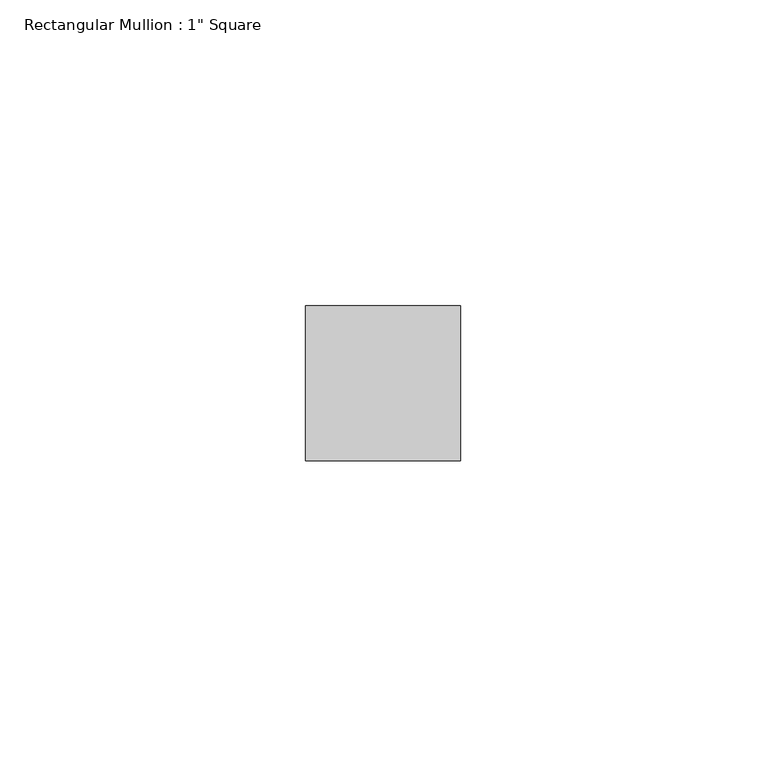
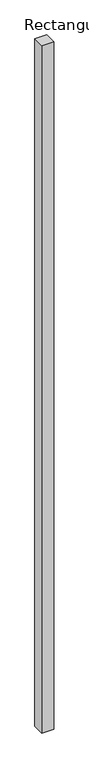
"""IFC4 building model written with IfcOpenShell, lengths in millimetres: member geometry."""

from ifc_helpers import new_model, si_unit, frame, origin, place, context, project, spatial, polyline, outline, extrude, source, transform, mapped, element, save


def member_9a48f267(model_context):
    return source(origin(), model_context, "Body", "SweptSolid", [
        extrude(outline(polyline([(12.7, 12.7), (12.7, -12.7), (-12.7, -12.7), (-12.7, 12.7), (12.7, 12.7)])), frame((0.0, 0.0, -1548.2551926), z_axis=(0.0, 0.0, 1.0), x_axis=(1.0, 0.0, 0.0)), (0.0, 0.0, 1.0), 1548.2551926),
    ])


if __name__ == "__main__":
    model = new_model("IFC4")
    model_context = context("Model", 3, world=origin())
    ifc_project = project(units=[si_unit("LENGTHUNIT", "METRE", prefix="MILLI")], contexts=[model_context])
    site = spatial("IfcSite", under=ifc_project)
    building = spatial("IfcBuilding", under=site)
    placement = place(None, origin())
    member_shape = member_9a48f267(model_context)
    element("IfcMember", 1, ObjectType="Rectangular Mullion : 1\" Square", at=placement, inside=building, context=model_context, shape_type="MappedRepresentation", body=[
        mapped(member_shape, transform((0.0, 0.0, 0.0), x_axis=(1.0, 0.0, 0.0), y_axis=(0.0, 1.0, 0.0), z_axis=(0.0, 0.0, 1.0))),
    ])
    save(model, "model.ifc")
